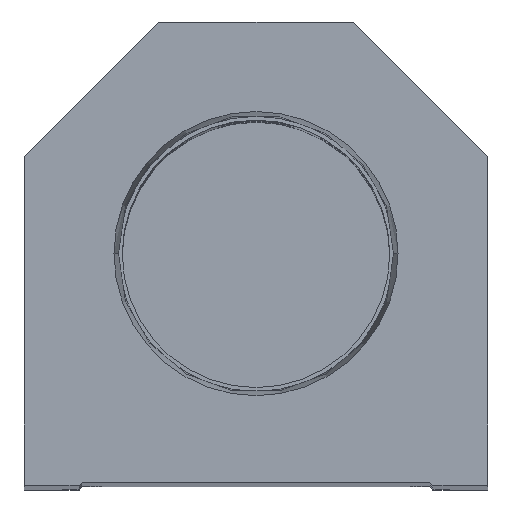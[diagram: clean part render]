
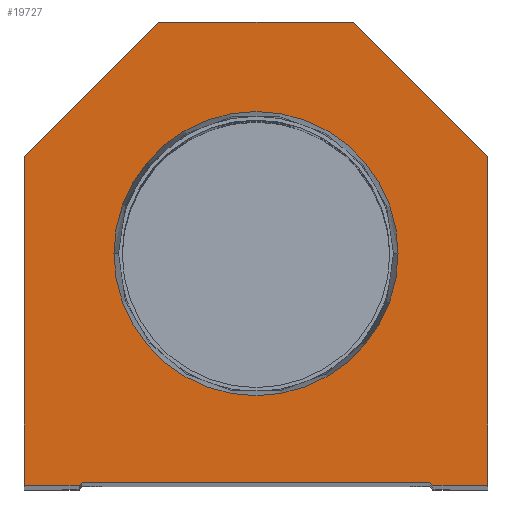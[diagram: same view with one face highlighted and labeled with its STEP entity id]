
A CAD part, top view. The second image highlights one B-rep face of the part: STEP entity #19727.
In plain terms, the highlighted planar face has unit normal (0, 0, 1).
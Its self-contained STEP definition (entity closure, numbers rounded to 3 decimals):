
#91 = CIRCLE ( 'NONE', #15347, 23.374 ) ;
#112 = DIRECTION ( 'NONE',  ( 0., 0., 1. ) ) ;
#240 = CARTESIAN_POINT ( 'NONE',  ( 38.1, 0., 0. ) ) ;
#476 = ORIENTED_EDGE ( 'NONE', *, *, #2643, .T. ) ;
#734 = EDGE_CURVE ( 'NONE', #23157, #7255, #22393, .T. ) ;
#739 = CIRCLE ( 'NONE', #10133, 23.374 ) ;
#1016 = EDGE_CURVE ( 'NONE', #14495, #23774, #12016, .T. ) ;
#1089 = DIRECTION ( 'NONE',  ( 1., 0., 0. ) ) ;
#1255 = CARTESIAN_POINT ( 'NONE',  ( -38.1, 54.1, 0. ) ) ;
#2051 = DIRECTION ( 'NONE',  ( 1., 0., 0. ) ) ;
#2643 = EDGE_CURVE ( 'NONE', #7255, #7519, #13992, .T. ) ;
#2778 = CARTESIAN_POINT ( 'NONE',  ( 38.1, 0., 0. ) ) ;
#3077 = CARTESIAN_POINT ( 'NONE',  ( -28.6, 0.5, 0. ) ) ;
#3112 = CARTESIAN_POINT ( 'NONE',  ( -23.374, 38.1, 0. ) ) ;
#3530 = DIRECTION ( 'NONE',  ( 0., 0., 1. ) ) ;
#4703 = DIRECTION ( 'NONE',  ( -1., 0., 0. ) ) ;
#5041 = DIRECTION ( 'NONE',  ( 1., 0., 0. ) ) ;
#5259 = CARTESIAN_POINT ( 'NONE',  ( -28.6, 0.5, 0. ) ) ;
#5343 = AXIS2_PLACEMENT_3D ( 'NONE', #11345, #3530, #2051 ) ;
#5425 = ORIENTED_EDGE ( 'NONE', *, *, #19094, .T. ) ;
#5565 = ORIENTED_EDGE ( 'NONE', *, *, #1016, .T. ) ;
#5588 = VECTOR ( 'NONE', #1089, 1000. ) ;
#5731 = CARTESIAN_POINT ( 'NONE',  ( 14.55, 14.55, 0. ) ) ;
#5733 = FACE_BOUND ( 'NONE', #15982, .T. ) ;
#6171 = LINE ( 'NONE', #12153, #21588 ) ;
#6262 = CARTESIAN_POINT ( 'NONE',  ( 38.1, 54.1, 0. ) ) ;
#6285 = VERTEX_POINT ( 'NONE', #9020 ) ;
#7155 = DIRECTION ( 'NONE',  ( 0., 1., 0. ) ) ;
#7255 = VERTEX_POINT ( 'NONE', #17481 ) ;
#7519 = VERTEX_POINT ( 'NONE', #240 ) ;
#7705 = CARTESIAN_POINT ( 'NONE',  ( -38.1, 54.1, 0. ) ) ;
#7713 = DIRECTION ( 'NONE',  ( 0., 0., 1. ) ) ;
#7947 = EDGE_CURVE ( 'NONE', #8930, #19651, #10581, .T. ) ;
#8097 = DIRECTION ( 'NONE',  ( -0.707, 0.707, 0. ) ) ;
#8171 = ORIENTED_EDGE ( 'NONE', *, *, #13237, .F. ) ;
#8325 = EDGE_CURVE ( 'NONE', #22409, #20057, #19301, .T. ) ;
#8417 = EDGE_CURVE ( 'NONE', #23774, #8930, #14078, .T. ) ;
#8505 = CARTESIAN_POINT ( 'NONE',  ( 16., 76.2, 0. ) ) ;
#8790 = VECTOR ( 'NONE', #15052, 1000. ) ;
#8827 = VECTOR ( 'NONE', #5041, 1000. ) ;
#8930 = VERTEX_POINT ( 'NONE', #13740 ) ;
#9020 = CARTESIAN_POINT ( 'NONE',  ( -16., 76.2, 0. ) ) ;
#9125 = CARTESIAN_POINT ( 'NONE',  ( -14.55, 14.55, 0. ) ) ;
#9515 = CARTESIAN_POINT ( 'NONE',  ( 38.1, 54.1, 0. ) ) ;
#9528 = PLANE ( 'NONE',  #5343 ) ;
#10133 = AXIS2_PLACEMENT_3D ( 'NONE', #16867, #112, #20494 ) ;
#10192 = DIRECTION ( 'NONE',  ( 1., 0., 0. ) ) ;
#10545 = CARTESIAN_POINT ( 'NONE',  ( -38.1, 0., 0. ) ) ;
#10581 = LINE ( 'NONE', #9125, #21121 ) ;
#11345 = CARTESIAN_POINT ( 'NONE',  ( 0., 0., 0. ) ) ;
#11470 = DIRECTION ( 'NONE',  ( 0.707, -0.707, 0. ) ) ;
#12016 = LINE ( 'NONE', #10545, #14931 ) ;
#12153 = CARTESIAN_POINT ( 'NONE',  ( 16., 76.2, 0. ) ) ;
#12634 = EDGE_LOOP ( 'NONE', ( #20601, #21391, #5425, #23595, #476, #19424, #15472, #15598, #14559, #5565 ) ) ;
#13237 = EDGE_CURVE ( 'NONE', #18340, #16308, #739, .T. ) ;
#13555 = EDGE_CURVE ( 'NONE', #7519, #22409, #19485, .T. ) ;
#13740 = CARTESIAN_POINT ( 'NONE',  ( -29.1, 0., 0. ) ) ;
#13992 = LINE ( 'NONE', #19334, #22478 ) ;
#14078 = LINE ( 'NONE', #21464, #5588 ) ;
#14495 = VERTEX_POINT ( 'NONE', #1255 ) ;
#14559 = ORIENTED_EDGE ( 'NONE', *, *, #18499, .T. ) ;
#14588 = ORIENTED_EDGE ( 'NONE', *, *, #23057, .F. ) ;
#14807 = CARTESIAN_POINT ( 'NONE',  ( 0., 38.1, 0. ) ) ;
#14837 = VECTOR ( 'NONE', #7155, 1000. ) ;
#14931 = VECTOR ( 'NONE', #23423, 1000. ) ;
#14932 = DIRECTION ( 'NONE',  ( 1., 0., 0. ) ) ;
#15052 = DIRECTION ( 'NONE',  ( -0.707, -0.707, 0. ) ) ;
#15347 = AXIS2_PLACEMENT_3D ( 'NONE', #14807, #7713, #14932 ) ;
#15472 = ORIENTED_EDGE ( 'NONE', *, *, #8325, .T. ) ;
#15598 = ORIENTED_EDGE ( 'NONE', *, *, #18031, .T. ) ;
#15982 = EDGE_LOOP ( 'NONE', ( #8171, #14588 ) ) ;
#16308 = VERTEX_POINT ( 'NONE', #3112 ) ;
#16859 = LINE ( 'NONE', #7705, #8790 ) ;
#16867 = CARTESIAN_POINT ( 'NONE',  ( 0., 38.1, 0. ) ) ;
#17336 = CARTESIAN_POINT ( 'NONE',  ( 28.6, 0.5, 0. ) ) ;
#17481 = CARTESIAN_POINT ( 'NONE',  ( 29.1, 0., 0. ) ) ;
#18031 = EDGE_CURVE ( 'NONE', #20057, #6285, #6171, .T. ) ;
#18340 = VERTEX_POINT ( 'NONE', #23523 ) ;
#18404 = VECTOR ( 'NONE', #8097, 1000. ) ;
#18499 = EDGE_CURVE ( 'NONE', #6285, #14495, #16859, .T. ) ;
#18963 = CARTESIAN_POINT ( 'NONE',  ( -38.1, 0., 0. ) ) ;
#19094 = EDGE_CURVE ( 'NONE', #19651, #23157, #19773, .T. ) ;
#19301 = LINE ( 'NONE', #6262, #18404 ) ;
#19334 = CARTESIAN_POINT ( 'NONE',  ( 28.6, 0., 0. ) ) ;
#19424 = ORIENTED_EDGE ( 'NONE', *, *, #13555, .T. ) ;
#19485 = LINE ( 'NONE', #2778, #14837 ) ;
#19651 = VERTEX_POINT ( 'NONE', #5259 ) ;
#19727 = ADVANCED_FACE ( 'NONE', ( #5733, #20588 ), #9528, .T. ) ;
#19773 = LINE ( 'NONE', #3077, #8827 ) ;
#20043 = VECTOR ( 'NONE', #11470, 1000. ) ;
#20057 = VERTEX_POINT ( 'NONE', #8505 ) ;
#20494 = DIRECTION ( 'NONE',  ( 1., 0., 0. ) ) ;
#20588 = FACE_OUTER_BOUND ( 'NONE', #12634, .T. ) ;
#20601 = ORIENTED_EDGE ( 'NONE', *, *, #8417, .T. ) ;
#21121 = VECTOR ( 'NONE', #23931, 1000. ) ;
#21391 = ORIENTED_EDGE ( 'NONE', *, *, #7947, .T. ) ;
#21464 = CARTESIAN_POINT ( 'NONE',  ( -28.6, 0., 0. ) ) ;
#21588 = VECTOR ( 'NONE', #4703, 1000. ) ;
#22393 = LINE ( 'NONE', #5731, #20043 ) ;
#22409 = VERTEX_POINT ( 'NONE', #9515 ) ;
#22478 = VECTOR ( 'NONE', #10192, 1000. ) ;
#23057 = EDGE_CURVE ( 'NONE', #16308, #18340, #91, .T. ) ;
#23157 = VERTEX_POINT ( 'NONE', #17336 ) ;
#23423 = DIRECTION ( 'NONE',  ( 0., -1., 0. ) ) ;
#23523 = CARTESIAN_POINT ( 'NONE',  ( 23.374, 38.1, 0. ) ) ;
#23595 = ORIENTED_EDGE ( 'NONE', *, *, #734, .T. ) ;
#23774 = VERTEX_POINT ( 'NONE', #18963 ) ;
#23931 = DIRECTION ( 'NONE',  ( 0.707, 0.707, 0. ) ) ;
